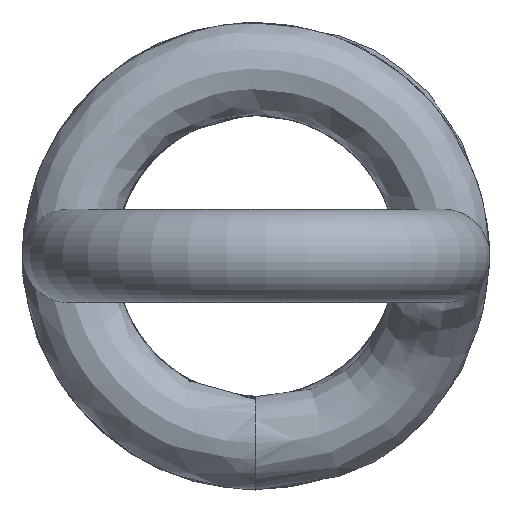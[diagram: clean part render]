
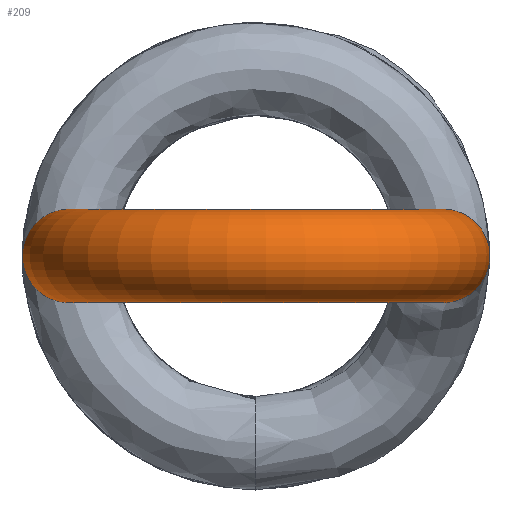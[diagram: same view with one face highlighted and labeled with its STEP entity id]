
A CAD part, front view. The second image highlights one B-rep face of the part: STEP entity #209.
In plain terms, the highlighted toroidal (fillet/blend) face has major radius 1.4 mm and minor radius 0.35 mm.
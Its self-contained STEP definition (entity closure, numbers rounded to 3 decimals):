
#15=TOROIDAL_SURFACE('',#246,1.4,0.35);
#22=CIRCLE('',#244,0.35);
#23=CIRCLE('',#245,0.35);
#24=CIRCLE('',#247,0.35);
#25=CIRCLE('',#248,1.05);
#39=FACE_OUTER_BOUND('',#50,.T.);
#50=EDGE_LOOP('',(#149,#150,#151,#152,#153));
#87=VERTEX_POINT('',#731);
#88=VERTEX_POINT('',#743);
#91=VERTEX_POINT('',#804);
#110=EDGE_CURVE('',#88,#87,#22,.T.);
#111=EDGE_CURVE('',#87,#88,#23,.T.);
#114=EDGE_CURVE('',#91,#91,#24,.T.);
#115=EDGE_CURVE('',#91,#88,#25,.T.);
#149=ORIENTED_EDGE('',*,*,#114,.F.);
#150=ORIENTED_EDGE('',*,*,#115,.T.);
#151=ORIENTED_EDGE('',*,*,#110,.T.);
#152=ORIENTED_EDGE('',*,*,#111,.T.);
#153=ORIENTED_EDGE('',*,*,#115,.F.);
#209=ADVANCED_FACE('',(#39),#15,.T.);
#244=AXIS2_PLACEMENT_3D('',#744,#270,#271);
#245=AXIS2_PLACEMENT_3D('',#745,#272,#273);
#246=AXIS2_PLACEMENT_3D('',#803,#274,#275);
#247=AXIS2_PLACEMENT_3D('',#805,#276,#277);
#248=AXIS2_PLACEMENT_3D('',#806,#278,#279);
#270=DIRECTION('center_axis',(0.,-1.,0.));
#271=DIRECTION('ref_axis',(-0.433,0.,-0.901));
#272=DIRECTION('center_axis',(0.,-1.,0.));
#273=DIRECTION('ref_axis',(-0.433,0.,-0.901));
#274=DIRECTION('center_axis',(0.,0.,
-1.));
#275=DIRECTION('ref_axis',(-0.125,-0.992,0.));
#276=DIRECTION('center_axis',(0.248,0.969,0.));
#277=DIRECTION('ref_axis',(0.419,-0.107,-0.901));
#278=DIRECTION('center_axis',(0.,0.,
1.));
#279=DIRECTION('ref_axis',(-0.125,-0.992,0.));
#731=CARTESIAN_POINT('',(1.248,-11.8,-0.315));
#743=CARTESIAN_POINT('',(1.05,-11.8,0.));
#744=CARTESIAN_POINT('Origin',(1.4,-11.8,0.));
#745=CARTESIAN_POINT('Origin',(1.4,-11.8,0.));
#803=CARTESIAN_POINT('Origin',(0.,-11.8,0.));
#804=CARTESIAN_POINT('',(-1.017,-11.54,0.));
#805=CARTESIAN_POINT('Origin',(-1.356,-11.453,0.));
#806=CARTESIAN_POINT('Origin',(0.,-11.8,0.));
